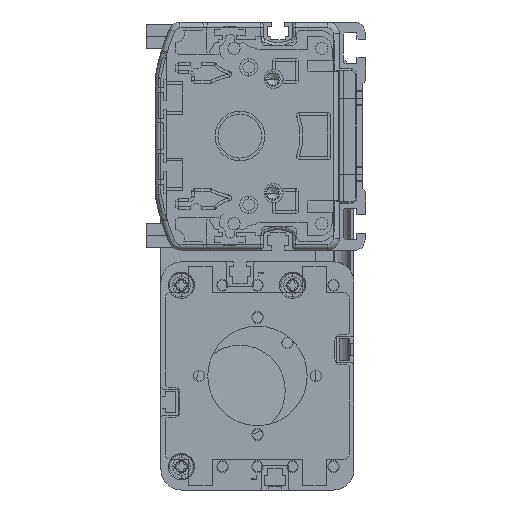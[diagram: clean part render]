
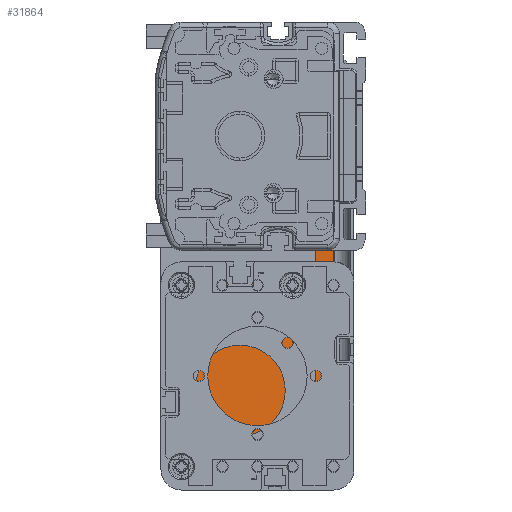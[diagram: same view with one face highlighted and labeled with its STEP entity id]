
A CAD part, left-side view. The second image highlights one B-rep face of the part: STEP entity #31864.
In plain terms, the highlighted spherical face has radius 998.8 mm.
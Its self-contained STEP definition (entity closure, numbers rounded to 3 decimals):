
#11640=CARTESIAN_POINT('',(429.,38.,-111.569));
#11641=DIRECTION('',(0.,0.,1.));
#11642=DIRECTION('',(1.,-0.026,0.));
#11643=AXIS2_PLACEMENT_3D('',#11640,#11641,#11642);
#11661=CARTESIAN_POINT('',(429.,38.,-111.569));
#11662=DIRECTION('',(0.,0.,1.));
#11663=DIRECTION('',(1.,0.007,0.));
#11664=AXIS2_PLACEMENT_3D('',#11661,#11662,#11663);
#11673=CARTESIAN_POINT('',(1425.688,44.777,
-111.569));
#11674=CARTESIAN_POINT('',(1425.741,44.493,
-110.776));
#11675=CARTESIAN_POINT('',(1425.841,43.643,
-109.292));
#11676=CARTESIAN_POINT('',(1425.952,41.684,
-107.641));
#11677=CARTESIAN_POINT('',(1426.011,39.279,
-106.764));
#11678=CARTESIAN_POINT('',(1426.011,36.72,
-106.764));
#11679=CARTESIAN_POINT('',(1425.952,34.316,
-107.642));
#11680=CARTESIAN_POINT('',(1425.841,32.356,
-109.293));
#11681=CARTESIAN_POINT('',(1425.741,31.507,
-110.776));
#11682=CARTESIAN_POINT('',(1425.688,31.223,
-111.569));
#11698=CARTESIAN_POINT('',(1425.688,31.223,17.569));
#11699=CARTESIAN_POINT('',(1425.741,31.506,16.779));
#11700=CARTESIAN_POINT('',(1425.84,32.352,15.299));
#11701=CARTESIAN_POINT('',(1425.952,34.313,13.642));
#11702=CARTESIAN_POINT('',(1426.011,36.72,12.764));
#11703=CARTESIAN_POINT('',(1426.011,39.281,12.764));
#11704=CARTESIAN_POINT('',(1425.952,41.688,13.643));
#11705=CARTESIAN_POINT('',(1425.84,43.649,15.3));
#11706=CARTESIAN_POINT('',(1425.741,44.494,16.78));
#11707=CARTESIAN_POINT('',(1425.688,44.777,17.569));
#11709=CARTESIAN_POINT('',(429.,64.152,-47.));
#11710=DIRECTION('',(0.,-1.,0.));
#11711=DIRECTION('',(0.998,0.,-0.065));
#11712=AXIS2_PLACEMENT_3D('',#11709,#11710,#11711);
#11745=CARTESIAN_POINT('',(429.,38.,17.569));
#11746=DIRECTION('',(0.,0.,-1.));
#11747=DIRECTION('',(1.,0.026,0.));
#11748=AXIS2_PLACEMENT_3D('',#11745,#11746,#11747);
#11758=CARTESIAN_POINT('',(429.,38.,17.569));
#11759=DIRECTION('',(0.,0.,-1.));
#11760=DIRECTION('',(1.,-0.007,0.));
#11761=AXIS2_PLACEMENT_3D('',#11758,#11759,#11760);
#11837=CARTESIAN_POINT('',(429.,11.848,-47.));
#11838=DIRECTION('',(0.,1.,0.));
#11839=DIRECTION('',(0.998,0.,0.065));
#11840=AXIS2_PLACEMENT_3D('',#11837,#11838,#11839);
#13444=VERTEX_POINT('',#11673);
#13445=VERTEX_POINT('',#11682);
#13446=CARTESIAN_POINT('',(1425.368,11.848,
-111.569));
#13447=VERTEX_POINT('',#13446);
#13448=CARTESIAN_POINT('',(1425.368,11.848,17.569));
#13449=VERTEX_POINT('',#13448);
#13450=CARTESIAN_POINT('',(1425.688,31.223,17.569));
#13451=VERTEX_POINT('',#13450);
#13452=VERTEX_POINT('',#11707);
#13453=CARTESIAN_POINT('',(1425.368,64.152,17.569));
#13454=VERTEX_POINT('',#13453);
#13455=CARTESIAN_POINT('',(1425.368,64.152,
-111.569));
#13456=VERTEX_POINT('',#13455);
#31844=CARTESIAN_POINT('',(429.,38.,-47.));
#31845=DIRECTION('',(0.,0.,-1.));
#31846=DIRECTION('',(1.,0.,0.));
#31847=AXIS2_PLACEMENT_3D('',#31844,#31845,#31846);
#31848=SPHERICAL_SURFACE('',#31847,998.8);
#31849=ORIENTED_EDGE('',*,*,#31835,.F.);
#31850=ORIENTED_EDGE('',*,*,#31821,.T.);
#31852=ORIENTED_EDGE('',*,*,#31851,.T.);
#31854=ORIENTED_EDGE('',*,*,#31853,.T.);
#31856=ORIENTED_EDGE('',*,*,#31855,.F.);
#31858=ORIENTED_EDGE('',*,*,#31857,.T.);
#31860=ORIENTED_EDGE('',*,*,#31859,.T.);
#31861=ORIENTED_EDGE('',*,*,#31814,.T.);
#31862=EDGE_LOOP('',(#31849,#31850,#31852,#31854,#31856,#31858,#31860,#31861));
#31863=FACE_OUTER_BOUND('',#31862,.F.);
#31864=ADVANCED_FACE('',(#31863),#31848,.F.);
#11644=CIRCLE('',#11643,996.711);
#11665=CIRCLE('',#11664,996.711);
#11683=B_SPLINE_CURVE_WITH_KNOTS('',3,(#11673,#11674,#11675,#11676,#11677,
#11678,#11679,#11680,#11681,#11682),.UNSPECIFIED.,.F.,.F.,(4,1,1,1,1,1,1,4),(
0.,0.143,0.286,0.429,0.571,
0.714,0.857,1.),.UNSPECIFIED.);
#11708=B_SPLINE_CURVE_WITH_KNOTS('',3,(#11698,#11699,#11700,#11701,#11702,
#11703,#11704,#11705,#11706,#11707),.UNSPECIFIED.,.F.,.F.,(4,1,1,1,1,1,1,4),(
0.,0.143,0.286,0.429,0.571,
0.714,0.857,1.),.UNSPECIFIED.);
#11713=CIRCLE('',#11712,998.458);
#11749=CIRCLE('',#11748,996.711);
#11762=CIRCLE('',#11761,996.711);
#11841=CIRCLE('',#11840,998.458);
#31814=EDGE_CURVE('',#13447,#13445,#11644,.T.);
#31821=EDGE_CURVE('',#13444,#13456,#11665,.T.);
#31835=EDGE_CURVE('',#13444,#13445,#11683,.T.);
#31851=EDGE_CURVE('',#13456,#13454,#11713,.T.);
#31853=EDGE_CURVE('',#13454,#13452,#11749,.T.);
#31855=EDGE_CURVE('',#13451,#13452,#11708,.T.);
#31857=EDGE_CURVE('',#13451,#13449,#11762,.T.);
#31859=EDGE_CURVE('',#13449,#13447,#11841,.T.);
